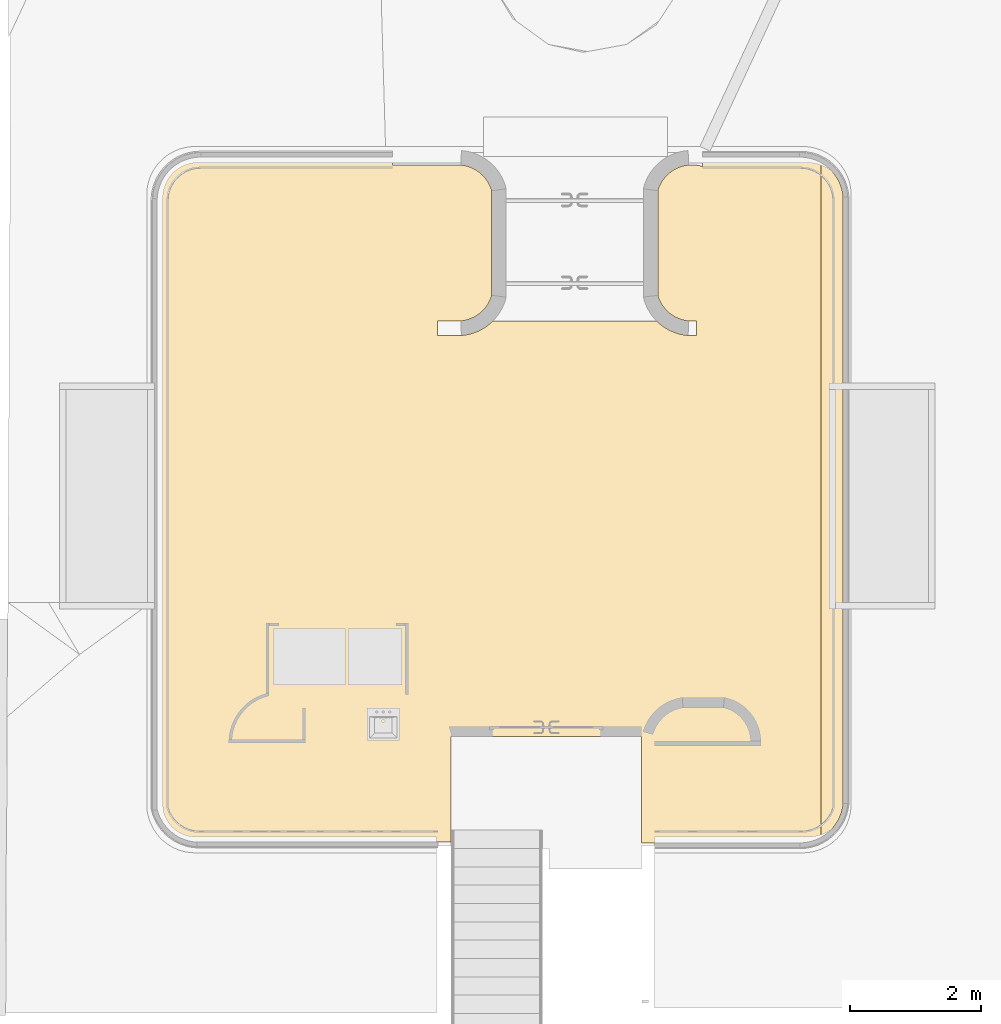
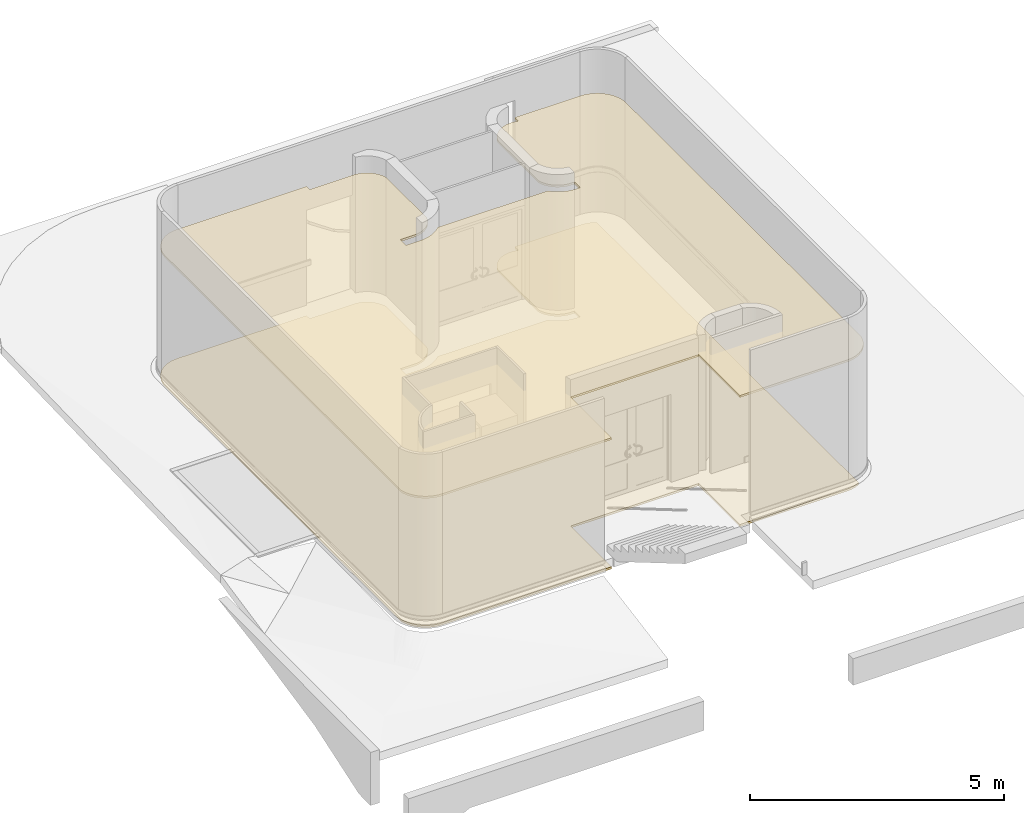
# One storey, part 3 of 6: 2 coverings.
"""IFC2X3 building model written with IfcOpenShell, lengths in metres."""

from ifc_helpers import new_model, entity, si_unit, converted_unit, derived_unit, direction, frame, frame_2d, origin, place, context, subcontext, project, spatial, polyline, circle_curve, parameter, trimmed, segment, composite_curve, outline, extrude, material, layer, layer_set, layer_usage, type_object, element, save


model = new_model("IFC2X3")

# Units and contexts
model_context = context("Model", 3, precision=1e-05, world=origin(), true_north=direction((6.12303176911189e-17, 1.0)))
body_context = subcontext(model_context, "Body", "Model", "MODEL_VIEW")
ifc_project = project(units=[si_unit("LENGTHUNIT", "METRE"), si_unit("AREAUNIT", "SQUARE_METRE"), si_unit("VOLUMEUNIT", "CUBIC_METRE"), converted_unit("PLANEANGLEUNIT", "DEGREE", entity("IfcRatioMeasure", 0.0174532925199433), si_unit("PLANEANGLEUNIT", "RADIAN"), dimensions=[0, 0, 0, 0, 0, 0, 0]), si_unit("MASSUNIT", "GRAM", prefix="KILO"), derived_unit("MASSDENSITYUNIT", [(si_unit("MASSUNIT", "GRAM", prefix="KILO"), 1), (si_unit("LENGTHUNIT", "METRE"), -3)]), derived_unit("MOMENTOFINERTIAUNIT", [(si_unit("LENGTHUNIT", "METRE"), 4)]), si_unit("TIMEUNIT", "SECOND"), si_unit("FREQUENCYUNIT", "HERTZ"), si_unit("THERMODYNAMICTEMPERATUREUNIT", "DEGREE_CELSIUS"), derived_unit("THERMALTRANSMITTANCEUNIT", [(si_unit("MASSUNIT", "GRAM", prefix="KILO"), 1), (si_unit("THERMODYNAMICTEMPERATUREUNIT", "KELVIN"), -1), (si_unit("TIMEUNIT", "SECOND"), -3)]), derived_unit("VOLUMETRICFLOWRATEUNIT", [(si_unit("LENGTHUNIT", "METRE"), 3), (si_unit("TIMEUNIT", "SECOND"), -1)]), si_unit("ELECTRICCURRENTUNIT", "AMPERE"), si_unit("ELECTRICVOLTAGEUNIT", "VOLT"), si_unit("POWERUNIT", "WATT"), si_unit("FORCEUNIT", "NEWTON", prefix="KILO"), si_unit("ILLUMINANCEUNIT", "LUX"), si_unit("LUMINOUSFLUXUNIT", "LUMEN"), si_unit("LUMINOUSINTENSITYUNIT", "CANDELA"), derived_unit("USERDEFINED", [(si_unit("MASSUNIT", "GRAM", prefix="KILO"), -1), (si_unit("LENGTHUNIT", "METRE"), -2), (si_unit("TIMEUNIT", "SECOND"), 3), (si_unit("LUMINOUSFLUXUNIT", "LUMEN"), 1)]), derived_unit("LINEARVELOCITYUNIT", [(si_unit("LENGTHUNIT", "METRE"), 1), (si_unit("TIMEUNIT", "SECOND"), -1)]), si_unit("PRESSUREUNIT", "PASCAL"), derived_unit("USERDEFINED", [(si_unit("LENGTHUNIT", "METRE"), -2), (si_unit("MASSUNIT", "GRAM", prefix="KILO"), 1), (si_unit("TIMEUNIT", "SECOND"), -2)]), derived_unit("LINEARFORCEUNIT", [(si_unit("MASSUNIT", "GRAM", prefix="KILO"), 1), (si_unit("LENGTHUNIT", "METRE"), 1), (si_unit("TIMEUNIT", "SECOND"), -2), (si_unit("LENGTHUNIT", "METRE"), -1)]), derived_unit("PLANARFORCEUNIT", [(si_unit("MASSUNIT", "GRAM", prefix="KILO"), 1), (si_unit("LENGTHUNIT", "METRE"), 1), (si_unit("TIMEUNIT", "SECOND"), -2), (si_unit("LENGTHUNIT", "METRE"), -2)])], contexts=[model_context])

# Site, building, storey
site_placement = place(None, origin())
site = spatial("IfcSite", under=ifc_project, at=site_placement, Name="Default", CompositionType="ELEMENT")
building_placement = place(site_placement, origin())
building = spatial("IfcBuilding", under=site, at=building_placement, CompositionType="ELEMENT")
storey_placement = place(building_placement, frame((0.0, 0.0, 2.31330827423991)))
storey = spatial("IfcBuildingStorey", under=building, at=storey_placement, Name="Niveau 00 - 03", CompositionType="ELEMENT", Elevation=2.31330827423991)

# Coverings
ifc_material_1 = material(Name="Montant métallique")
ifc_layer_1 = layer(ifc_material_1, 0.04)
ifc_material_2 = material(Name="Faux-plafond - bande bois")
ifc_layer_2 = layer(ifc_material_2, 0.01)
ifc_layer_set_1 = layer_set([ifc_layer_1, ifc_layer_2], Name="Plafond composé:Normal FP bois")
ifc_layer_usage_1 = layer_usage(ifc_layer_set_1, "AXIS3", "POSITIVE", 0.0)
covering_type_1 = type_object("IfcCoveringType", Name="Plafond composé:Normal FP bois", PredefinedType="CEILING")
covering_1_placement = place(storey_placement, origin())
element("IfcCovering", 1, at=covering_1_placement, inside=storey, type_object=covering_type_1, material=ifc_layer_usage_1, Name="Plafond composé:Normal FP bois", ObjectType="Plafond composé:Normal FP bois", PredefinedType="CEILING", context=body_context, shape_type="SweptSolid", body=[
    extrude(outline(composite_curve([segment(trimmed(circle_curve(frame_2d((3.9143973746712, 2.9544324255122), x_axis=(1.0, 0.0)), 0.66361383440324), [parameter(4.48091349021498)], [parameter(90.6258222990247)], True, "PARAMETER"), True, "CONTINUOUS"), segment(polyline([(3.90714909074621, 3.61800667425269), (2.42682051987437, 3.61800667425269)]), True, "CONTINUOUS"), segment(polyline([(2.42682051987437, 3.61800667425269), (2.42682051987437, 3.47555548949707)]), True, "CONTINUOUS"), segment(trimmed(circle_curve(frame_2d((2.26529896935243, 2.9586810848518), x_axis=(1.0, 0.0)), 0.541524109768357), [parameter(72.6461471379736)], [parameter(164.2116536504)], True, "PARAMETER"), True, "CONTINUOUS"), segment(polyline([(1.7442047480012, 3.10602141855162), (1.74420474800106, 1.50767169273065)]), True, "CONTINUOUS"), segment(trimmed(circle_curve(frame_2d((2.26529896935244, 1.65501202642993), x_axis=(1.0, 0.0)), 0.541524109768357), [parameter(195.788346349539)], [parameter(264.835348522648)], True, "PARAMETER"), True, "CONTINUOUS"), segment(polyline([(2.21655196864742, 1.11568643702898), (2.33682051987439, 1.11568643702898)]), True, "CONTINUOUS"), segment(polyline([(2.33682051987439, 1.11568643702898), (2.33682051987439, 0.895686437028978)]), True, "CONTINUOUS"), segment(polyline([(2.33682051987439, 0.895686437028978), (2.20747493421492, 0.895686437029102)]), True, "CONTINUOUS"), segment(trimmed(circle_curve(frame_2d((2.26529896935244, 1.65501202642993), x_axis=(1.0, 0.0)), 0.761524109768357), [parameter(225.090165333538)], [parameter(265.645226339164)], True, "PARAMETER"), False, "CONTINUOUS"), segment(polyline([(1.72766816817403, 1.11568643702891), (-0.774258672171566, 1.11568643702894)]), True, "CONTINUOUS"), segment(trimmed(circle_curve(frame_2d((-1.31188947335, 1.65501202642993), x_axis=(1.0, 0.0)), 0.761524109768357), [parameter(274.35477366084)], [parameter(314.909834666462)], True, "PARAMETER"), False, "CONTINUOUS"), segment(polyline([(-1.25406543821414, 0.895686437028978), (-1.61841102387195, 0.895686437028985)]), True, "CONTINUOUS"), segment(polyline([(-1.61841102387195, 0.895686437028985), (-1.61841102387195, 1.11568643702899)]), True, "CONTINUOUS"), segment(polyline([(-1.61841102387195, 1.11568643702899), (-1.26314247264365, 1.1156864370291)]), True, "CONTINUOUS"), segment(trimmed(circle_curve(frame_2d((-1.31188947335, 1.65501202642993), x_axis=(1.0, 0.0)), 0.541524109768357), [parameter(275.164651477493)], [parameter(344.211653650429)], True, "PARAMETER"), True, "CONTINUOUS"), segment(polyline([(-0.79079525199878, 1.50767169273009), (-0.790795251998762, 3.10602141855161)]), True, "CONTINUOUS"), segment(trimmed(circle_curve(frame_2d((-1.31188947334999, 2.9586810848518), x_axis=(1.0, 0.0)), 0.541524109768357), [parameter(15.7883463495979)], [parameter(84.835348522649)], True, "PARAMETER"), True, "CONTINUOUS"), segment(polyline([(-1.26314247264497, 3.49800667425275), (-2.30341102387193, 3.4980066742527)]), True, "CONTINUOUS"), segment(polyline([(-2.30341102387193, 3.4980066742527), (-2.30341102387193, 3.6180066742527)]), True, "CONTINUOUS"), segment(polyline([(-2.30341102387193, 3.6180066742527), (-5.22873959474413, 3.6180066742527)]), True, "CONTINUOUS"), segment(trimmed(circle_curve(frame_2d((-5.23598787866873, 2.9544324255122), x_axis=(1.0, 0.0)), 0.66361383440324), [parameter(89.3741777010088)], [parameter(177.594999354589)], True, "PARAMETER"), True, "CONTINUOUS"), segment(polyline([(-5.89901718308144, 2.98227955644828), (-5.89901718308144, -6.34529154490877)]), True, "CONTINUOUS"), segment(trimmed(circle_curve(frame_2d((-5.25662184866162, -6.17882366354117), x_axis=(1.0, 0.0)), 0.66361383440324), [parameter(194.527847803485)], [parameter(266.828543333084)], True, "PARAMETER"), True, "CONTINUOUS"), segment(polyline([(-5.29333568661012, -6.84142113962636), (-1.41453131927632, -6.84142113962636)]), True, "CONTINUOUS"), segment(polyline([(-1.41453131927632, -6.84142113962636), (-1.41453131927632, -5.22759383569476)]), True, "CONTINUOUS"), segment(polyline([(-1.41453131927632, -5.22759383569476), (1.49374161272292, -5.22759383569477)]), True, "CONTINUOUS"), segment(polyline([(1.49374161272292, -5.22759383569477), (1.49374161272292, -6.85243749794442)]), True, "CONTINUOUS"), segment(polyline([(1.49374161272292, -6.85243749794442), (3.91503134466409, -6.85243749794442)]), True, "CONTINUOUS"), segment(trimmed(circle_curve(frame_2d((3.91503134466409, -6.18882366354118), x_axis=(1.0, 0.0)), 0.66361383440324), [parameter(270.0)], [parameter(354.865965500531)], True, "PARAMETER"), True, "CONTINUOUS"), segment(polyline([(4.5759828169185, -6.24820777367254), (4.5759828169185, 3.00627858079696)]), True, "CONTINUOUS")], self_intersect=False)), frame((-17.3295625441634, 22.4735981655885, 2.8)), (0.0, 0.0, 1.0), 0.0499999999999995),
])
ifc_layer_3 = layer(ifc_material_1, 0.04)
ifc_material_3 = material(Name="Faux-plafond - Trame 600 x 600 -90")
ifc_layer_4 = layer(ifc_material_3, 0.01)
ifc_layer_set_2 = layer_set([ifc_layer_3, ifc_layer_4], Name="Plafond composé:Normal")
ifc_layer_usage_2 = layer_usage(ifc_layer_set_2, "AXIS3", "POSITIVE", 0.0)
covering_type_2 = type_object("IfcCoveringType", Name="Plafond composé:Normal", PredefinedType="CEILING")
covering_2_placement = place(storey_placement, origin())
element("IfcCovering", 2, at=covering_2_placement, inside=storey, type_object=covering_type_2, material=ifc_layer_usage_2, Name="Plafond composé:Normal", ObjectType="Plafond composé:Normal", PredefinedType="CEILING", context=body_context, shape_type="SweptSolid", body=[
    extrude(outline(composite_curve([segment(trimmed(circle_curve(frame_2d((3.93622549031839, 2.95420065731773), x_axis=(1.0, 0.0)), 0.66361383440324), [parameter(60.8495181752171)], [parameter(90.6258222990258)], True, "PARAMETER"), True, "CONTINUOUS"), segment(polyline([(3.92897720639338, 3.61777490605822), (2.44864863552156, 3.61777490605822)]), True, "CONTINUOUS"), segment(polyline([(2.44864863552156, 3.61777490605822), (2.44864863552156, 3.4753237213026)]), True, "CONTINUOUS"), segment(trimmed(circle_curve(frame_2d((2.28712708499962, 2.95844931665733), x_axis=(1.0, 0.0)), 0.541524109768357), [parameter(72.6461471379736)], [parameter(164.2116536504)], True, "PARAMETER"), True, "CONTINUOUS"), segment(polyline([(1.76603286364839, 3.10578965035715), (1.76603286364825, 1.50743992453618)]), True, "CONTINUOUS"), segment(trimmed(circle_curve(frame_2d((2.28712708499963, 1.65478025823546), x_axis=(1.0, 0.0)), 0.541524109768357), [parameter(195.788346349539)], [parameter(264.835348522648)], True, "PARAMETER"), True, "CONTINUOUS"), segment(polyline([(2.23838008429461, 1.11545466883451), (2.35864863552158, 1.11545466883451)]), True, "CONTINUOUS"), segment(polyline([(2.35864863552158, 1.11545466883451), (2.35864863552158, 0.89545466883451)]), True, "CONTINUOUS"), segment(polyline([(2.35864863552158, 0.89545466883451), (2.22930304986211, 0.895454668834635)]), True, "CONTINUOUS"), segment(trimmed(circle_curve(frame_2d((2.28712708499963, 1.65478025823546), x_axis=(1.0, 0.0)), 0.761524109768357), [parameter(225.090165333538)], [parameter(265.645226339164)], True, "PARAMETER"), False, "CONTINUOUS"), segment(polyline([(1.74949628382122, 1.11545466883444), (-0.752430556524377, 1.11545466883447)]), True, "CONTINUOUS"), segment(trimmed(circle_curve(frame_2d((-1.29006135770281, 1.65478025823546), x_axis=(1.0, 0.0)), 0.761524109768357), [parameter(274.35477366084)], [parameter(314.909834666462)], True, "PARAMETER"), False, "CONTINUOUS"), segment(polyline([(-1.23223732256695, 0.89545466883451), (-1.59658290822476, 0.895454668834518)]), True, "CONTINUOUS"), segment(polyline([(-1.59658290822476, 0.895454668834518), (-1.59658290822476, 1.11545466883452)]), True, "CONTINUOUS"), segment(polyline([(-1.59658290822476, 1.11545466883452), (-1.24131435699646, 1.11545466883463)]), True, "CONTINUOUS"), segment(trimmed(circle_curve(frame_2d((-1.29006135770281, 1.65478025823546), x_axis=(1.0, 0.0)), 0.541524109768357), [parameter(275.164651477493)], [parameter(344.211653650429)], True, "PARAMETER"), True, "CONTINUOUS"), segment(polyline([(-0.768967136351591, 1.50743992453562), (-0.768967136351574, 3.10578965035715)]), True, "CONTINUOUS"), segment(trimmed(circle_curve(frame_2d((-1.2900613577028, 2.95844931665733), x_axis=(1.0, 0.0)), 0.541524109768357), [parameter(15.7883463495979)], [parameter(84.835348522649)], True, "PARAMETER"), True, "CONTINUOUS"), segment(polyline([(-1.24131435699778, 3.49777490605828), (-2.28158290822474, 3.49777490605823)]), True, "CONTINUOUS"), segment(polyline([(-2.28158290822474, 3.49777490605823), (-2.28158290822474, 3.61777490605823)]), True, "CONTINUOUS"), segment(polyline([(-2.28158290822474, 3.61777490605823), (-5.20691147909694, 3.61777490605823)]), True, "CONTINUOUS"), segment(trimmed(circle_curve(frame_2d((-5.21415976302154, 2.95420065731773), x_axis=(1.0, 0.0)), 0.66361383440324), [parameter(89.3741777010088)], [parameter(177.594999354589)], True, "PARAMETER"), True, "CONTINUOUS"), segment(polyline([(-5.87718906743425, 2.98204778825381), (-5.87718906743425, -6.34552331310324)]), True, "CONTINUOUS"), segment(trimmed(circle_curve(frame_2d((-5.23479373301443, -6.17905543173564), x_axis=(1.0, 0.0)), 0.66361383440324), [parameter(194.527847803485)], [parameter(266.828543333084)], True, "PARAMETER"), True, "CONTINUOUS"), segment(polyline([(-5.27150757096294, -6.84165290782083), (-1.39270320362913, -6.84165290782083)]), True, "CONTINUOUS"), segment(polyline([(-1.39270320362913, -6.84165290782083), (-1.39270320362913, -5.22782560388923)]), True, "CONTINUOUS"), segment(polyline([(-1.39270320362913, -5.22782560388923), (1.51556972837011, -5.22782560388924)]), True, "CONTINUOUS"), segment(polyline([(1.51556972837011, -5.22782560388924), (1.51556972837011, -6.85266926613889)]), True, "CONTINUOUS"), segment(polyline([(1.51556972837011, -6.85266926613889), (3.93685946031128, -6.85266926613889)]), True, "CONTINUOUS"), segment(trimmed(circle_curve(frame_2d((3.93685946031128, -6.18905543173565), x_axis=(1.0, 0.0)), 0.66361383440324), [parameter(270.0)], [parameter(299.087826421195)], True, "PARAMETER"), True, "CONTINUOUS"), segment(polyline([(4.2594751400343, -6.76897132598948), (4.2594751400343, 3.53376341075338)]), True, "CONTINUOUS")], self_intersect=False)), frame((-17.3513906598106, 22.473829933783, -0.300000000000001)), (0.0, 0.0, 1.0), 0.05),
])

save(model, "model.ifc")
